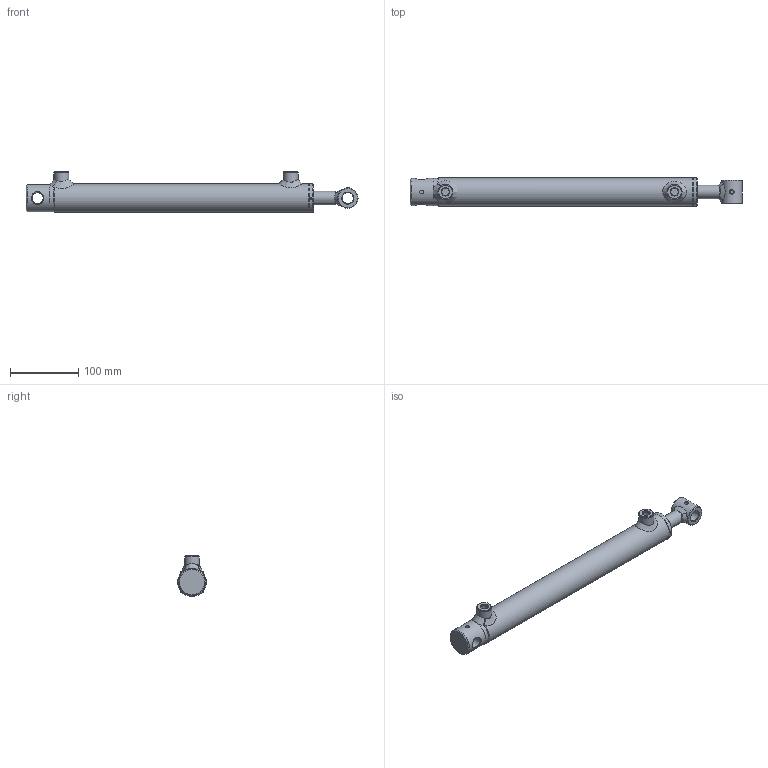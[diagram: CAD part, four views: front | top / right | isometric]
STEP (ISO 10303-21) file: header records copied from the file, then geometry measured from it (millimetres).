
FILE_DESCRIPTION( ( 'Unknown' ), '1' );
FILE_NAME( 'E:/LIBRERIA_3d/CILINDRI/HFRT/HFR0200300.stp', 'Unknown', ( 'Unknown' ), ( 'Unknown' ), 'PSStep 17.0.49', 'Unknown', ' ' );
FILE_SCHEMA( ( 'AUTOMOTIVE_DESIGN { 1 0 10303 214 1 1 1 1 }' ) );
Length unit declared in the file: millimetre
Products named in the file (24): CG04203220; STFR032050300-oa5; Saldatura d'angolo 1-oa3; MAT_PRIMA_TUBO_FT04203200-oa4; CBSC220400; CT00032015; Assem1; Saldatura d'angolo 1-oa0; Saldatura con preparazione 1-oa1; Saldatura d'angolo 2-oa2; CFHR040032; CBF0016030035; CBS0400000; CDA0001415; APG0400000; SBFR200320300
Assembly tree (16 placements, depth 3):
  Saldatura d'angolo 1-oa3
  Saldatura d'angolo 1-oa3
  Assem1
    Saldatura con preparazione 1-oa1
    Saldatura con preparazione 1-oa1
    CFHR040032
    CBF0016030035
    CBS0400000
    CDA0001415
    APG0400000  x2
    SBFR200320300
    CT00032015
      CT00032015
    CG04203220
      CG04203220
    STFR032050300-oa5
      MAT_PRIMA_TUBO_FT04203200-oa4
      CBSC220400
  Saldatura d'angolo 1-oa0
  Saldatura d'angolo 1-oa0
Bounding box: 487 x 42 x 60 mm (x, y, z)
Volume: 449100.9 mm3; surface area: 168078.2 mm2
Topology: 21 solids, 21 shells, 235 faces, 482 edges, 296 vertices
Faces by surface type: plane 64, cylinder 58, bspline 45, cone 36, torus 32
Full cylindrical faces by diameter (mm): 3 x2, 4 x2, 5 x2, 5.5 x2, 11.445 x2, 12 x2, 13.1 x2, 14 x2, 15 x3, 16.2 x2, 19.5 x1, 20 x6, 22 x4, 23 x1, 24 x1, 28 x3, 28.3 x1, 28.6 x1, 30 x1, 31.4 x2, 31.9 x1, 32 x1, 32.3 x1, 32.5 x1, 32.6 x1, 33 x1, 34.376 x1, 35 x3, 36 x1, 40 x3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
Entity records: 14676 total; most frequent: CARTESIAN_POINT 8991, DIRECTION 762, ORIENTED_EDGE 580, EDGE_LOOP 402, AXIS2_PLACEMENT_3D 369, FACE_OUTER_BOUND 324, EDGE_CURVE 290, VERTEX_POINT 244
